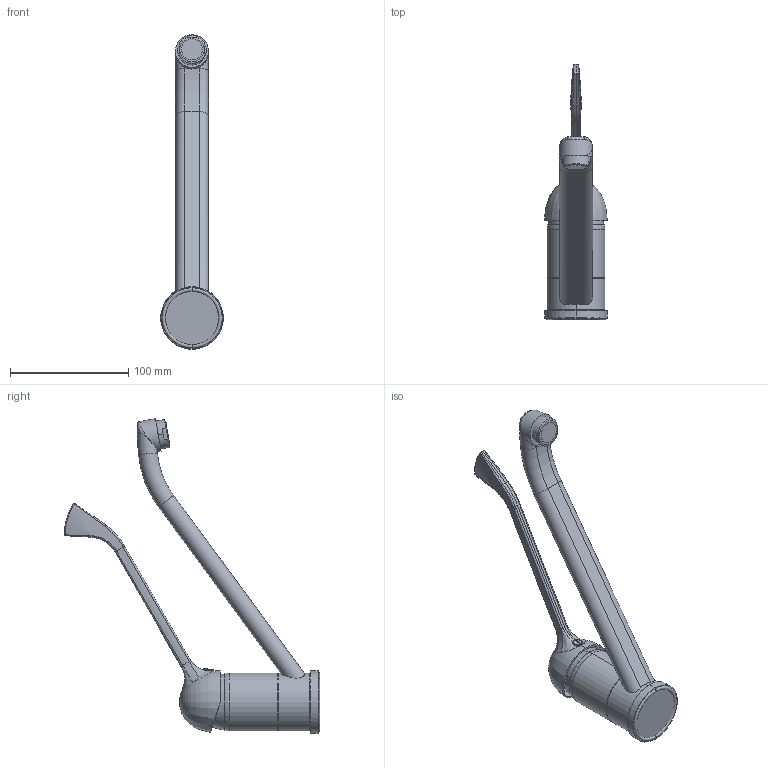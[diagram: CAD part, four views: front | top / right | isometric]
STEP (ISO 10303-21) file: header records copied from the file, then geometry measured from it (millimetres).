
FILE_DESCRIPTION((''),'2;1');
FILE_NAME('10010_SUB01_SW0001','2026-10-07T11:28:52',('simi1'),(''),'CREO PARAMETRIC BY PTC INC, 2022244','CREO PARAMETRIC BY PTC INC, 2022244','');
FILE_SCHEMA(('CONFIG_CONTROL_DESIGN'));
Length unit declared in the file: millimetre
Products named in the file (1): 10010_SUB01_SW0001
Bounding box: 53 x 215.91 x 266.28 mm (x, y, z)
Surface area: 60730.9 mm2 (no closed solid volume)
Topology: 0 solids, 14 shells, 199 faces, 506 edges, 308 vertices
Faces by surface type: bspline 99, cylinder 35, plane 27, cone 16, torus 10, revolution 6, sphere 6
Entity records: 10688 total; most frequent: CARTESIAN_POINT 6749, ORIENTED_EDGE 885, DIRECTION 610, EDGE_CURVE 500, VERTEX_POINT 308, AXIS2_PLACEMENT_3D 255, B_SPLINE_CURVE_WITH_KNOTS 251, EDGE_LOOP 199
